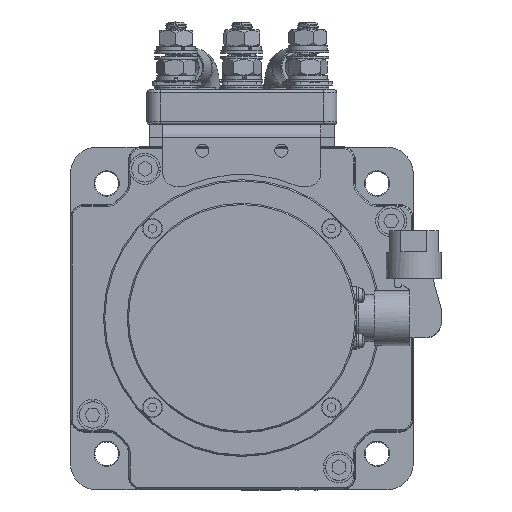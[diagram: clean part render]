
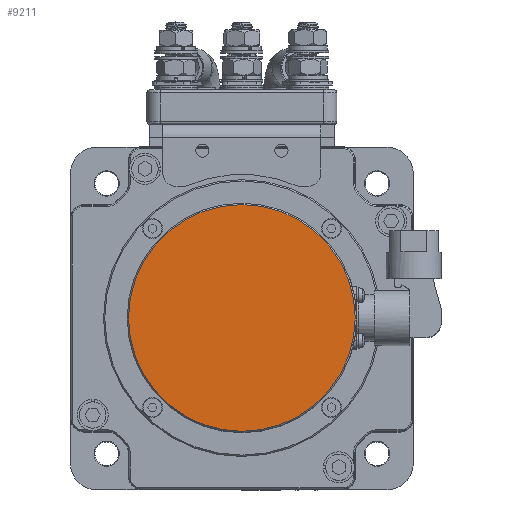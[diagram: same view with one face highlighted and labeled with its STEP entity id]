
A CAD part, top view. The second image highlights one B-rep face of the part: STEP entity #9211.
In plain terms, the highlighted planar face has unit normal (0, 0, 1).
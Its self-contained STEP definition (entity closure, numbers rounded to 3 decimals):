
#896 = DIRECTION ( 'NONE',  ( 0., 0., 1. ) ) ;
#1602 = EDGE_LOOP ( 'NONE', ( #73067 ) ) ;
#9211 = ADVANCED_FACE ( 'NONE', ( #47680 ), #70643, .T. ) ;
#14468 = AXIS2_PLACEMENT_3D ( 'NONE', #24752, #896, #78728 ) ;
#17978 = VERTEX_POINT ( 'NONE', #103816 ) ;
#21242 = AXIS2_PLACEMENT_3D ( 'NONE', #72416, #81209, #89266 ) ;
#24752 = CARTESIAN_POINT ( 'NONE',  ( 0., 0., 153. ) ) ;
#29968 = CIRCLE ( 'NONE', #21242, 43. ) ;
#47680 = FACE_OUTER_BOUND ( 'NONE', #1602, .T. ) ;
#70643 = PLANE ( 'NONE',  #14468 ) ;
#72416 = CARTESIAN_POINT ( 'NONE',  ( 0., 0., 153. ) ) ;
#73067 = ORIENTED_EDGE ( 'NONE', *, *, #85284, .T. ) ;
#78728 = DIRECTION ( 'NONE',  ( 1., 0., 0. ) ) ;
#81209 = DIRECTION ( 'NONE',  ( 0., 0., 1. ) ) ;
#85284 = EDGE_CURVE ( 'NONE', #17978, #17978, #29968, .T. ) ;
#89266 = DIRECTION ( 'NONE',  ( -1., 0., 0. ) ) ;
#103816 = CARTESIAN_POINT ( 'NONE',  ( -43., 0., 153. ) ) ;
